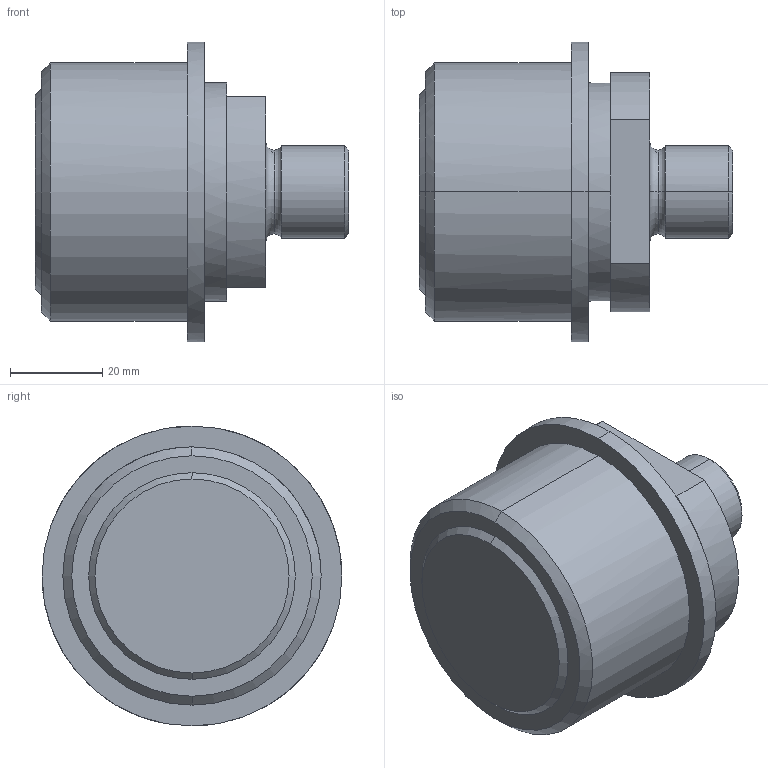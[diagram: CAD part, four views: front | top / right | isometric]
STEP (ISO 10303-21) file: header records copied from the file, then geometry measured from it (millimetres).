
FILE_DESCRIPTION(('CATIA V5 STEP Exchange'),'2;1');
FILE_NAME('C:\Users\Utente\Desktop\IO LAVORO\3D X SITO CF\X SITO\PLASTICA\AGS\AGS3412M20.stp','2021-02-21T19:38:20+00:00',('none'),('none'),'CATIA Version 5 Release 20 GA (IN-10)','CATIA V5 STEP AP203','none');
FILE_SCHEMA(('CONFIG_CONTROL_DESIGN'));
Length unit declared in the file: millimetre
Products named in the file (1): AGS3412M20
Bounding box: 68 x 65 x 65 mm (x, y, z)
Volume: 121920.4 mm3; surface area: 16467.7 mm2
Topology: 1 solids, 1 shells, 32 faces, 90 edges, 64 vertices
Faces by surface type: plane 12, cylinder 10, cone 6, torus 4
Entity records: 1198 total; most frequent: CARTESIAN_POINT 343, ORIENTED_EDGE 180, DIRECTION 139, EDGE_CURVE 90, AXIS2_PLACEMENT_3D 82, VERTEX_POINT 64, CIRCLE 49, EDGE_LOOP 36
